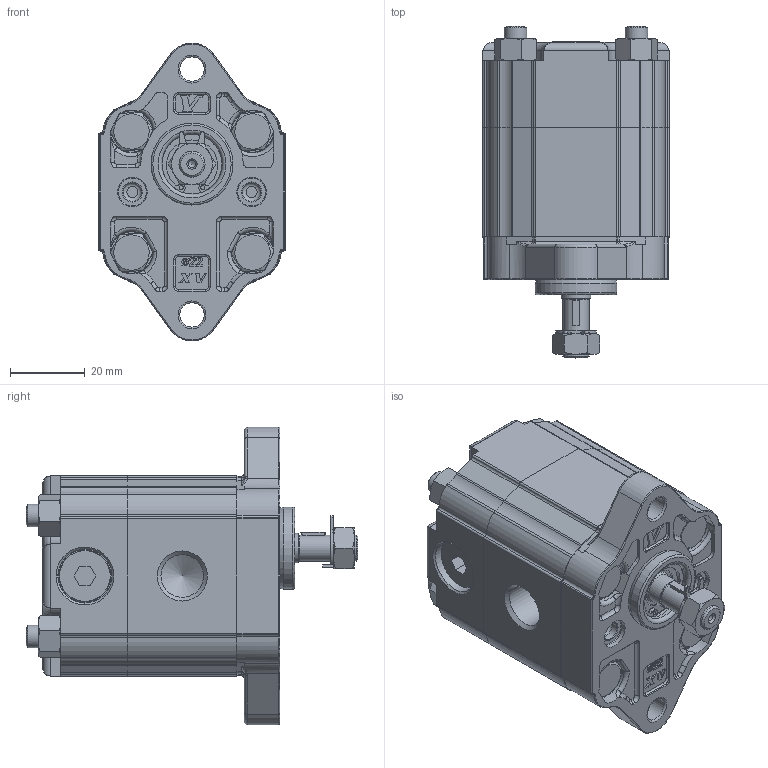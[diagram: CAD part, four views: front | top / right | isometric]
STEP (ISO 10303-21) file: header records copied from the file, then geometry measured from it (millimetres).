
FILE_DESCRIPTION(/* description */ ('Unknown'),/* implementation_level */ '2;1');
FILE_NAME(/* name */ 'X0R0101ABBF',/* time_stamp */ '2021-05-10T18:02:43+02:00',/* author */ ('Unknown'),/* organization */ ('Unknown'),/* preprocessor_version */ 'ST-DEVELOPER v16.7',/* originating_system */ 'Solid Edge',/* authorisation */ 'Unknown');
FILE_SCHEMA (('AUTOMOTIVE_DESIGN {1 0 10303 214 3 1 1}'));
Length unit declared in the file: millimetre
Products named in the file (5): X0R0101ABBF; X0R01; 0A; X0BBH29,3; XR001-F
Assembly tree (4 placements, depth 2):
  X0R0101ABBF
    X0R01
    0A
    X0BBH29,3
    XR001-F
Bounding box: 50 x 89.1 x 79.95 mm (x, y, z)
Volume: 148129.5 mm3; surface area: 41171.1 mm2
Topology: 4 solids, 9 shells, 980 faces, 2526 edges, 1598 vertices
Faces by surface type: plane 424, cylinder 315, cone 111, torus 84, bspline 42, sphere 4
Full cylindrical faces by diameter (mm): 1.053 x2, 2 x1, 5 x2, 6 x8, 6.01 x4, 6.5 x8, 7 x2, 7.25 x1, 7.5 x2, 7.9 x2, 7.92 x1, 8 x2, 8.1 x2, 8.566 x6, 9.318 x1, 10 x6, 10.445 x1, 11 x1, 11.445 x2, 14 x5, 14.5 x2, 16 x1, 16.2 x1, 16.8 x1, 22 x1
Entity records: 36588 total; most frequent: CARTESIAN_POINT 6380, DIRECTION 4929, ORIENTED_EDGE 4676, EDGE_CURVE 2338, AXIS2_PLACEMENT_3D 1900, VERTEX_POINT 1540, FACE_BOUND 1214, EDGE_LOOP 1209
